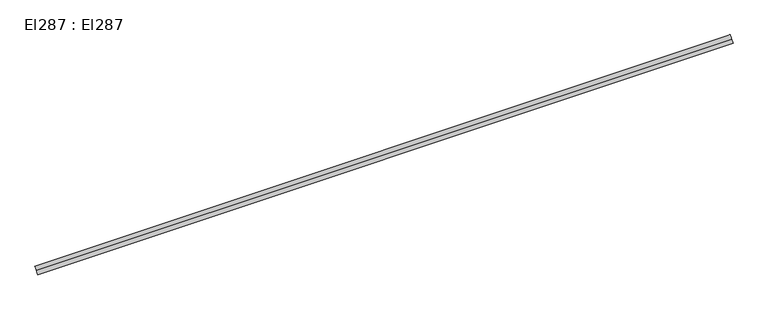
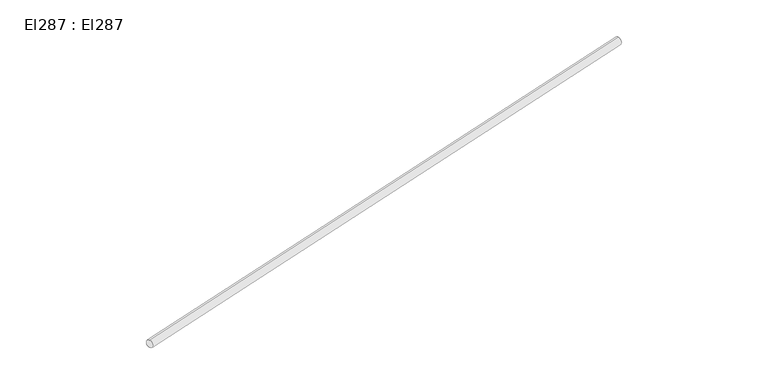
"""IFC4 building model written with IfcOpenShell, lengths in millimetres: cable carrier segment geometry, El287 : El287."""

import ifcopenshell
import ifcopenshell.guid

model = None  # the IFC model being written
_history = None  # IfcOwnerHistory: only IFC2X3 demands one
_inside = {}  # id of a spatial element -> (the spatial element, [elements in it])
_under = {}  # id of a project, library or spatial element -> (it, [spatial elements below it])
_declared = {}  # id of a project -> (the project, [libraries it declares])
_typed = {}  # id of a type object -> (the type object, [elements of that type])
_made_of = {}  # id of a material, layer set ... -> (it, [elements and type objects made of it])


def new_model(schema):
    """Start an empty IFC model of exactly this schema.

    Asked for "IFC4X3", IfcOpenShell would pick the latest addendum, in which some entities
    have other attributes; the version numbers below select the first issue.
    IFC2X3 requires an IfcOwnerHistory on every rooted entity: one is made here for all.
    """
    global model, _history
    if schema == "IFC4X3":
        model = ifcopenshell.file(schema_version=(4, 3, 0, 0))
    else:
        model = ifcopenshell.file(schema=schema)
    _inside.clear()
    _under.clear()
    _declared.clear()
    _typed.clear()
    _made_of.clear()
    _history = None
    if model.schema == "IFC2X3":
        org = make("IfcOrganization", Name="unknown")
        user = make(
            "IfcPersonAndOrganization",
            ThePerson=make("IfcPerson", FamilyName="unknown"),
            TheOrganization=org,
        )
        app = make(
            "IfcApplication",
            ApplicationDeveloper=org,
            Version="unknown",
            ApplicationFullName="unknown",
            ApplicationIdentifier="unknown",
        )
        _history = make(
            "IfcOwnerHistory",
            OwningUser=user,
            OwningApplication=app,
            ChangeAction="ADDED",
            CreationDate=0,
        )
    return model


def make(cls, **values):
    """One entity of the class cls with the attributes given. An attribute that is None is left unset."""
    return model.create_entity(
        cls, **{name: value for name, value in values.items() if value is not None}
    )


def rooted(cls, **values):
    """An entity with a GlobalId (a new one), such as an element, a storey or a relation."""
    return make(cls, GlobalId=ifcopenshell.guid.new(), OwnerHistory=_history, **values)


def si_unit(unit_type, name, prefix=None):
    """IfcSIUnit, for example si_unit("LENGTHUNIT", "METRE", prefix="MILLI")."""
    return make("IfcSIUnit", UnitType=unit_type, Prefix=prefix, Name=name)


def assignment(units):
    """IfcUnitAssignment: the units of a project."""
    return None if units is None else make("IfcUnitAssignment", Units=units)


def point(xyz):
    """IfcCartesianPoint."""
    return None if xyz is None else make("IfcCartesianPoint", Coordinates=xyz)


def direction(xyz):
    """IfcDirection."""
    return None if xyz is None else make("IfcDirection", DirectionRatios=xyz)


def frame(location, z_axis=None, x_axis=None):
    """IfcAxis2Placement3D, a coordinate frame: its origin and axes. An axis left out is left unset."""
    return make(
        "IfcAxis2Placement3D",
        Location=point(location),
        Axis=direction(z_axis),
        RefDirection=direction(x_axis),
    )


def frame_2d(location, x_axis=None):
    """IfcAxis2Placement2D, a coordinate frame in the plane: its origin and x axis."""
    return make(
        "IfcAxis2Placement2D", Location=point(location), RefDirection=direction(x_axis)
    )


def origin():
    """The frame at (0, 0, 0) with its axes left unset."""
    return frame((0.0, 0.0, 0.0))


def place(relative_to, where):
    """IfcLocalPlacement: puts the frame where relative to a parent placement (None: the world)."""
    return make(
        "IfcLocalPlacement", PlacementRelTo=relative_to, RelativePlacement=where
    )


def context(
    kind, dimensions, precision=None, world=None, true_north=None, identifier=None
):
    """IfcGeometricRepresentationContext, for example the 3D "Model" context."""
    return make(
        "IfcGeometricRepresentationContext",
        ContextIdentifier=identifier,
        ContextType=kind,
        CoordinateSpaceDimension=dimensions,
        Precision=precision,
        WorldCoordinateSystem=world,
        TrueNorth=true_north,
    )


def project(units=None, contexts=None):
    """IfcProject with its units and contexts."""
    return rooted(
        "IfcProject",
        Name="project",
        RepresentationContexts=contexts,
        UnitsInContext=assignment(units),
    )


def spatial(cls, under=None, at=None, **own):
    """A site, building, storey or space (cls), placed at a placement, below another one or the project."""
    s = rooted(cls, ObjectPlacement=at, **own)
    if under is not None:
        _under.setdefault(under.id(), (under, []))[1].append(s)
    return s


def circle_curve(where, radius):
    """IfcCircle in the frame where."""
    return make("IfcCircle", Position=where, Radius=radius)


def trimmed(basis, trim1, trim2, sense, master):
    """IfcTrimmedCurve: the piece of a basis curve between two trims."""
    return make(
        "IfcTrimmedCurve",
        BasisCurve=basis,
        Trim1=trim1,
        Trim2=trim2,
        SenseAgreement=sense,
        MasterRepresentation=master,
    )


def segment(curve, same_sense, transition):
    """IfcCompositeCurveSegment."""
    return make(
        "IfcCompositeCurveSegment",
        Transition=transition,
        SameSense=same_sense,
        ParentCurve=curve,
    )


def composite_curve(segments, self_intersect=None):
    """IfcCompositeCurve: segments joined end to end."""
    return make("IfcCompositeCurve", Segments=segments, SelfIntersect=self_intersect)


def outline(outer, holes=None, kind="AREA"):
    """IfcArbitraryClosedProfileDef: a profile drawn as a closed curve; with holes, ...WithVoids."""
    if holes is None:
        return make("IfcArbitraryClosedProfileDef", ProfileType=kind, OuterCurve=outer)
    return make(
        "IfcArbitraryProfileDefWithVoids",
        ProfileType=kind,
        OuterCurve=outer,
        InnerCurves=holes,
    )


def extrude(swept, where, along, depth):
    """IfcExtrudedAreaSolid: the profile swept, set in the frame where, extruded along a direction by depth."""
    return make(
        "IfcExtrudedAreaSolid",
        SweptArea=swept,
        Position=where,
        ExtrudedDirection=direction(along),
        Depth=depth,
    )


def shape(context_of_items, identifier, shape_type, items):
    """IfcShapeRepresentation: the items that make up one representation, for example the "Body"."""
    return make(
        "IfcShapeRepresentation",
        ContextOfItems=context_of_items,
        RepresentationIdentifier=identifier,
        RepresentationType=shape_type,
        Items=items,
    )


def source(mapping_origin, context_of_items, identifier, shape_type, items):
    """IfcRepresentationMap: a shape defined once, which mapped items show again and again."""
    return make(
        "IfcRepresentationMap",
        MappingOrigin=mapping_origin,
        MappedRepresentation=shape(context_of_items, identifier, shape_type, items),
    )


def transform(
    local_origin,
    x_axis=None,
    y_axis=None,
    z_axis=None,
    scale=None,
    scale2=None,
    scale3=None,
    uniform=True,
):
    """IfcCartesianTransformationOperator3D, or its non-uniform kind. x_axis, y_axis, z_axis: its Axis1, 2, 3."""
    if uniform:
        return make(
            "IfcCartesianTransformationOperator3D",
            Axis1=direction(x_axis),
            Axis2=direction(y_axis),
            LocalOrigin=point(local_origin),
            Scale=scale,
            Axis3=direction(z_axis),
        )
    return make(
        "IfcCartesianTransformationOperator3DnonUniform",
        Axis1=direction(x_axis),
        Axis2=direction(y_axis),
        LocalOrigin=point(local_origin),
        Scale=scale,
        Axis3=direction(z_axis),
        Scale2=scale2,
        Scale3=scale3,
    )


def mapped(mapping_source, mapping_target):
    """IfcMappedItem: shows the shape of a source again, moved by a transform."""
    return make(
        "IfcMappedItem", MappingSource=mapping_source, MappingTarget=mapping_target
    )


def made_of(thing, what):
    """Note that an element or type object is made of a material, layer set ...; save() writes the relation."""
    if what is not None:
        _made_of.setdefault(what.id(), (what, []))[1].append(thing)
    return thing


def element(
    cls,
    number,
    at=None,
    inside=None,
    cuts=None,
    type_object=None,
    material=None,
    context=None,
    identifier="Body",
    shape_type=None,
    held_by="IfcProductDefinitionShape",
    body=None,
    shapes=None,
    **own,
):
    """One element of the class cls, such as IfcWall. Its Tag is "e" and its number.

    at: its placement. inside: the storey or other place that contains it. cuts: it is an
    opening in that element (IfcRelVoidsElement). A single representation is given by context,
    identifier, shape_type and body (its items); several are given by shapes. held_by: the class
    of the entity that holds the representations. save() writes the other relations.
    """
    e = rooted(cls, Tag="e%d" % number, ObjectPlacement=at, **own)
    if body is not None:
        shapes = [shape(context, identifier, shape_type, body)]
    if shapes is not None:
        e.Representation = make(held_by, Representations=shapes)
    if inside is not None:
        _inside.setdefault(inside.id(), (inside, []))[1].append(e)
    if cuts is not None:
        rooted(
            "IfcRelVoidsElement", RelatingBuildingElement=cuts, RelatedOpeningElement=e
        )
    if type_object is not None:
        _typed.setdefault(type_object.id(), (type_object, []))[1].append(e)
    return made_of(e, material)


def aggregate(whole, parts):
    """IfcRelAggregates: a whole, such as a stair, and the parts it consists of."""
    return rooted("IfcRelAggregates", RelatingObject=whole, RelatedObjects=parts)


def save(model, path):
    """Write the relations noted so far, then the file.

    IfcRelAggregates (storeys below a building ...), IfcRelContainedInSpatialStructure (elements
    in a storey), IfcRelDefinesByType, IfcRelAssociatesMaterial and IfcRelDeclares: one each for
    every whole, place, type object, material and project.
    """
    for whole, parts in _under.values():
        aggregate(whole, parts)
    for where, things in _inside.values():
        rooted(
            "IfcRelContainedInSpatialStructure",
            RelatedElements=things,
            RelatingStructure=where,
        )
    for kind, things in _typed.values():
        rooted("IfcRelDefinesByType", RelatedObjects=things, RelatingType=kind)
    for what, things in _made_of.values():
        rooted("IfcRelAssociatesMaterial", RelatedObjects=things, RelatingMaterial=what)
    for by, libraries in _declared.values():
        rooted("IfcRelDeclares", RelatingContext=by, RelatedDefinitions=libraries)
    model.write(path)


def el287_el287_2e4961a3(model_context):
    return source(origin(), model_context, "Body", "SweptSolid", [
        extrude(outline(composite_curve([segment(trimmed(circle_curve(frame_2d((0.0, -9.5)), 9.5), [point((0.0, -19.0))], [point((0.0, 0.0))], False, "CARTESIAN"), True, "CONTINUOUS"), segment(trimmed(circle_curve(frame_2d((0.0, -9.5)), 9.5), [point((0.0, 0.0))], [point((0.0, -19.0))], False, "CARTESIAN"), True, "CONTINUOUS")], self_intersect=False)), frame((3112.122, 14281.105, 2959.5), z_axis=(0.9487358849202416, 0.31606996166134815, 0.0), x_axis=(-0.31606996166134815, 0.9487358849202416, 0.0)), (0.0, 0.0, 1.0), 1535.07),
    ])


if __name__ == "__main__":
    model = new_model("IFC4")
    model_context = context("Model", 3, world=origin())
    ifc_project = project(units=[si_unit("LENGTHUNIT", "METRE", prefix="MILLI")], contexts=[model_context])
    site = spatial("IfcSite", under=ifc_project)
    building = spatial("IfcBuilding", under=site)
    placement = place(None, origin())
    el287_el287_shape = el287_el287_2e4961a3(model_context)
    element("IfcCableCarrierSegment", 1, ObjectType="El287 : El287", at=placement, inside=building, context=model_context, shape_type="MappedRepresentation", body=[
        mapped(el287_el287_shape, transform((0.0, 0.0, 0.0), x_axis=(1.0, 0.0, 0.0), y_axis=(0.0, 1.0, 0.0), z_axis=(0.0, 0.0, 1.0))),
    ])
    save(model, "model.ifc")
